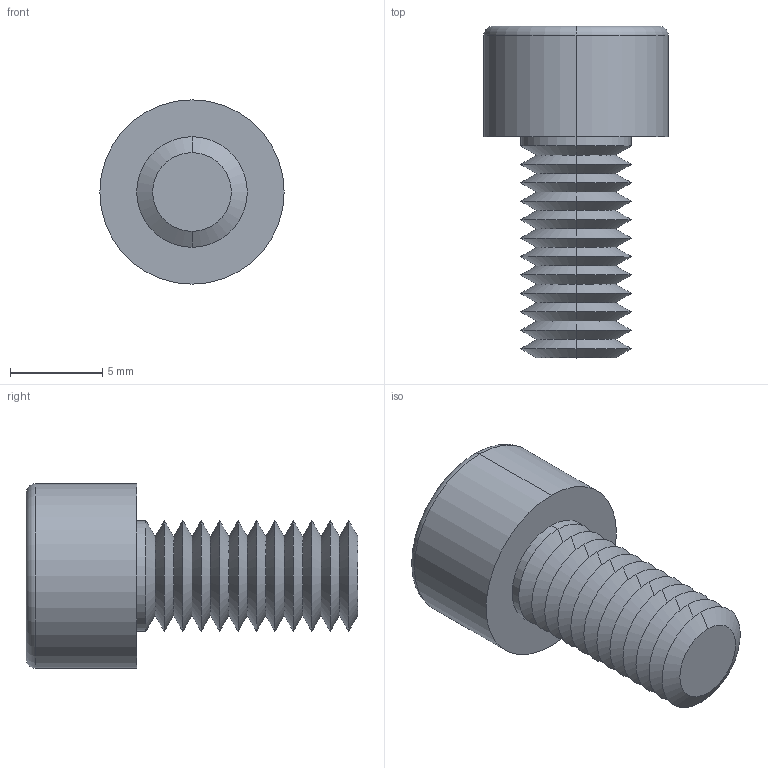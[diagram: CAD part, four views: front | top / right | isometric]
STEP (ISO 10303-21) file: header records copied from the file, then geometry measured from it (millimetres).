
FILE_DESCRIPTION (( 'STEP AP203' ), '1' );
FILE_NAME ('91N.060.0120.step', '2025-05-20T08:52:35', ( '' ), ( '' ), 'SwSTEP 2.0', 'SolidWorks 2019', '' );
FILE_SCHEMA (( 'CONFIG_CONTROL_DESIGN' ));
Length unit declared in the file: millimetre
Products named in the file (1): 91N.060.0120
Bounding box: 10 x 18 x 10 mm (x, y, z)
Volume: 606.2 mm3; surface area: 793.8 mm2
Topology: 1 solids, 1 shells, 76 faces, 151 edges, 77 vertices
Faces by surface type: cone 55, plane 15, cylinder 4, torus 2
Entity records: 1978 total; most frequent: DIRECTION 367, CARTESIAN_POINT 330, ORIENTED_EDGE 298, EDGE_CURVE 149, AXIS2_PLACEMENT_3D 148, EDGE_LOOP 78, VERTEX_POINT 77, ADVANCED_FACE 76
